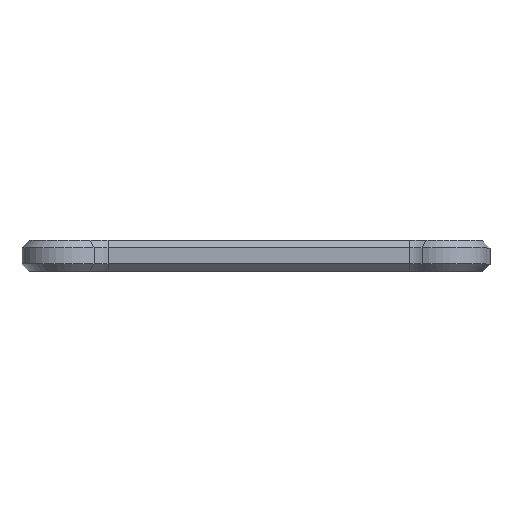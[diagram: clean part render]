
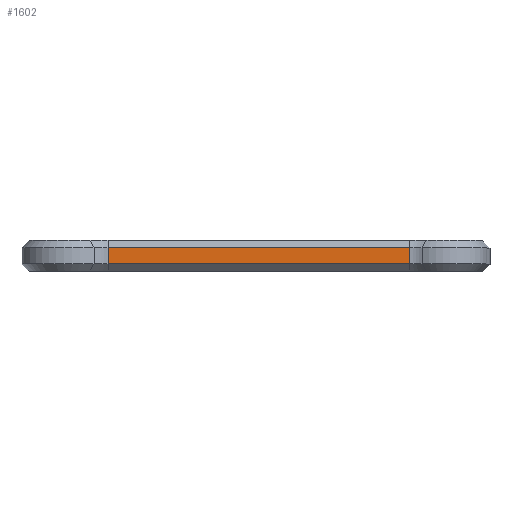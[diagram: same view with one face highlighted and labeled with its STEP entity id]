
A CAD part, top view. The second image highlights one B-rep face of the part: STEP entity #1602.
In plain terms, the highlighted planar face has unit normal (0, 0, 1).
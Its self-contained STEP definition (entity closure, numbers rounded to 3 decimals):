
#208=FACE_OUTER_BOUND('',#310,.T.);
#310=EDGE_LOOP('',(#1179,#1180,#1181,#1182));
#398=LINE('',#2424,#546);
#438=LINE('',#2572,#586);
#439=LINE('',#2576,#587);
#440=LINE('',#2577,#588);
#546=VECTOR('',#1892,10.);
#586=VECTOR('',#2056,10.);
#587=VECTOR('',#2061,10.);
#588=VECTOR('',#2062,10.);
#691=VERTEX_POINT('',#2417);
#694=VERTEX_POINT('',#2422);
#740=VERTEX_POINT('',#2571);
#741=VERTEX_POINT('',#2575);
#830=EDGE_CURVE('',#694,#691,#398,.T.);
#904=EDGE_CURVE('',#691,#740,#438,.T.);
#906=EDGE_CURVE('',#694,#741,#439,.T.);
#907=EDGE_CURVE('',#740,#741,#440,.T.);
#1179=ORIENTED_EDGE('',*,*,#830,.F.);
#1180=ORIENTED_EDGE('',*,*,#906,.T.);
#1181=ORIENTED_EDGE('',*,*,#907,.F.);
#1182=ORIENTED_EDGE('',*,*,#904,.F.);
#1543=PLANE('',#1759);
#1602=ADVANCED_FACE('',(#208),#1543,.T.);
#1759=AXIS2_PLACEMENT_3D('',#2574,#2059,#2060);
#1892=DIRECTION('',(1.,0.,0.));
#2056=DIRECTION('',(0.,-1.,0.));
#2059=DIRECTION('center_axis',(0.,0.,1.));
#2060=DIRECTION('ref_axis',(1.,0.,0.));
#2061=DIRECTION('',(0.,-1.,0.));
#2062=DIRECTION('',(-1.,0.,0.));
#2417=CARTESIAN_POINT('',(-6.523,0.65,32.853));
#2422=CARTESIAN_POINT('',(-31.01,0.65,32.853));
#2424=CARTESIAN_POINT('',(-25.042,0.65,32.853));
#2571=CARTESIAN_POINT('',(-6.523,-0.65,32.853));
#2572=CARTESIAN_POINT('',(-6.523,0.,32.853));
#2574=CARTESIAN_POINT('Origin',(-31.01,0.,32.853));
#2575=CARTESIAN_POINT('',(-31.01,-0.65,32.853));
#2576=CARTESIAN_POINT('',(-31.01,0.,32.853));
#2577=CARTESIAN_POINT('',(-25.042,-0.65,32.853));
